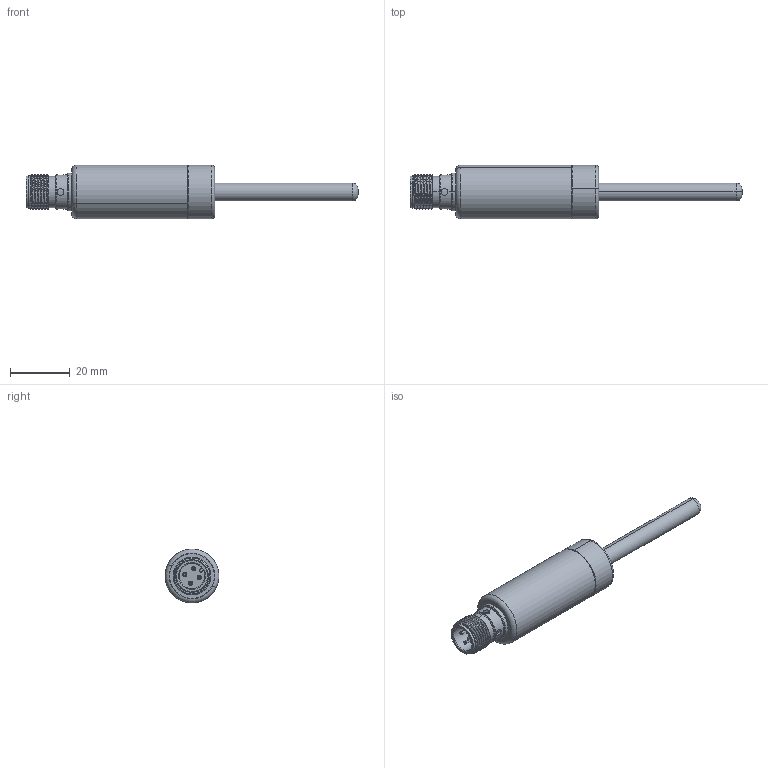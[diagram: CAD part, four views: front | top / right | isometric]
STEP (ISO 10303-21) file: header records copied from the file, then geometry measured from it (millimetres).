
FILE_DESCRIPTION (( 'STEP AP214' ), '1' );
FILE_NAME ('BTA1A.STEP', '2026-03-03T08:36:47', ( '' ), ( '' ), 'SwSTEP 2.0', 'SolidWorks 2025', '' );
FILE_SCHEMA (( 'AUTOMOTIVE_DESIGN' ));
Length unit declared in the file: millimetre
Products named in the file (7): 壳体; BTA1A; 探头管; 航插座壳; 航插胶壳; 温度探头接头; 航插针
Assembly tree (9 placements, depth 2):
  BTA1A
    航插座壳
    壳体
    温度探头接头
    探头管
    航插胶壳
    航插针  x4
Bounding box: 110.9 x 17.99 x 17.99 mm (x, y, z)
Volume: 3947.8 mm3; surface area: 10194.4 mm2
Topology: 9 solids, 9 shells, 181 faces, 393 edges, 246 vertices
Faces by surface type: cylinder 97, plane 46, torus 22, cone 13, bspline 3
Entity records: 5914 total; most frequent: CARTESIAN_POINT 2400, DIRECTION 741, ORIENTED_EDGE 654, EDGE_CURVE 327, AXIS2_PLACEMENT_3D 315, VERTEX_POINT 204, EDGE_LOOP 177, CIRCLE 161
